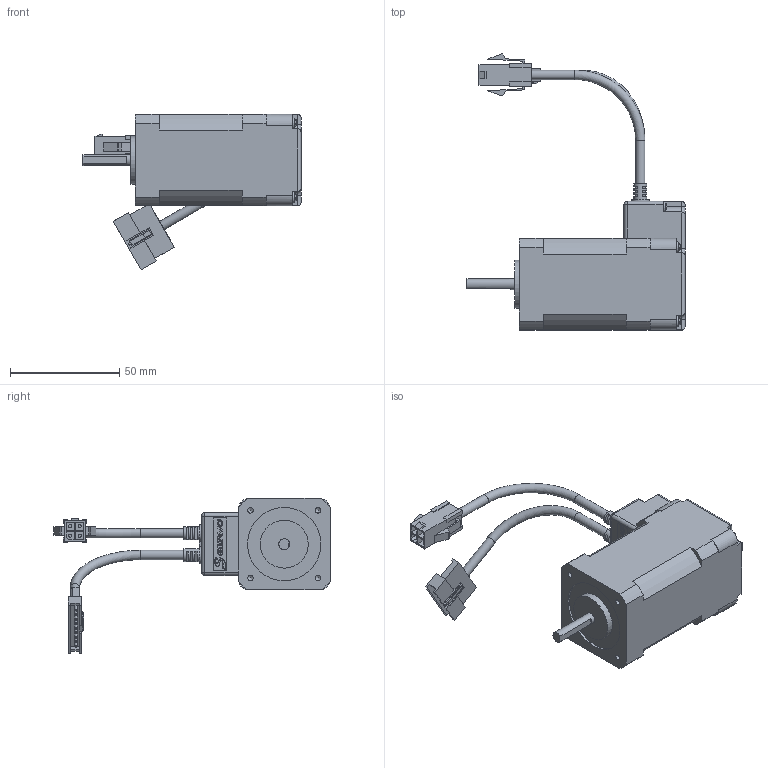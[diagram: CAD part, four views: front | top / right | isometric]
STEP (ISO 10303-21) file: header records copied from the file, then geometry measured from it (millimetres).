
FILE_DESCRIPTION(/* description */ (''),/* implementation_level */ '2;1');
FILE_NAME(/* name */ '\\EMN0D5F01\rp_inventor\RP Mechanical Design\Wiley\Updated Models\eCLM-S174F.stp',/* time_stamp */ '2016-10-27T15:42:08-07:00',/* author */ ('JDB'),/* organization */ ('Parker Hannifin Corp'),/* preprocessor_version */ 'ST-DEVELOPER v15.2',/* originating_system */ 'Autodesk Inventor 2014',/* authorisation */ '');
FILE_SCHEMA (('CONFIG_CONTROL_DESIGN'));
Products named in the file (1): eCLM-S174F_sw
Bounding box: 100 x 126.61 x 71.22 mm (x, y, z)
Volume: 124160.6 mm3; surface area: 34264.7 mm2
Topology: 3 solids, 3 shells, 3796 faces, 11089 edges, 7361 vertices
Faces by surface type: plane 3573, cylinder 123, bspline 44, cone 40, sphere 8, torus 8
Full cylindrical faces by diameter (mm): 1 x9, 1.5 x4, 1.6 x4, 2.1 x4, 2.3 x2, 2.5 x4, 4 x5, 4.3 x4, 5 x2, 6 x4, 8 x2, 9.2 x1, 17.5 x1, 22 x1, 33.6 x1
Entity records: 123165 total; most frequent: CARTESIAN_POINT 23049, ORIENTED_EDGE 21960, DIRECTION 18809, EDGE_CURVE 10978, LINE 10377, VECTOR 10377, VERTEX_POINT 7324, AXIS2_PLACEMENT_3D 4216
